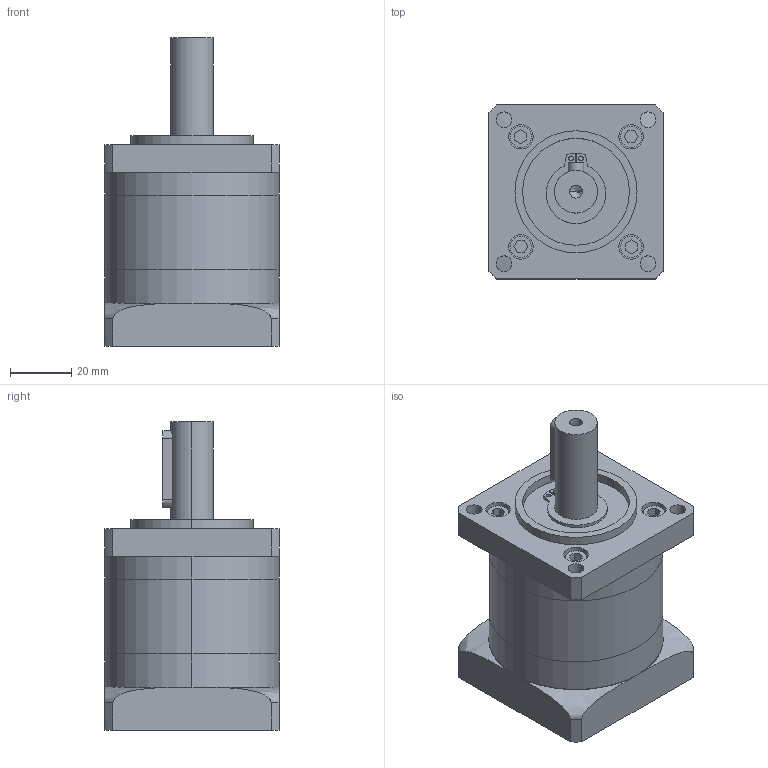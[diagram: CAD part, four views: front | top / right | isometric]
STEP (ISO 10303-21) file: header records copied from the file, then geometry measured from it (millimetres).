
FILE_DESCRIPTION (( 'STEP AP214' ), '1' );
FILE_NAME ('DLF57-L1-( )-J14-B.step', '2020-11-17T06:00:41', ( 'Moofasta' ), ( '' ), 'SwSTEP 2.0', 'SolidWorks 2020', '' );
FILE_SCHEMA (( 'AUTOMOTIVE_DESIGN' ));
Length unit declared in the file: millimetre
Products named in the file (1): DLF57-L1-(    )-J14-B
Bounding box: 57 x 57 x 101 mm (x, y, z)
Volume: 178958.7 mm3; surface area: 43110.4 mm2
Topology: 6 solids, 6 shells, 214 faces, 499 edges, 322 vertices
Faces by surface type: plane 112, cylinder 87, cone 11, bspline 4
Entity records: 7255 total; most frequent: CARTESIAN_POINT 1758, DIRECTION 1065, ORIENTED_EDGE 976, EDGE_CURVE 488, AXIS2_PLACEMENT_3D 383, VERTEX_POINT 322, LINE 299, VECTOR 299
